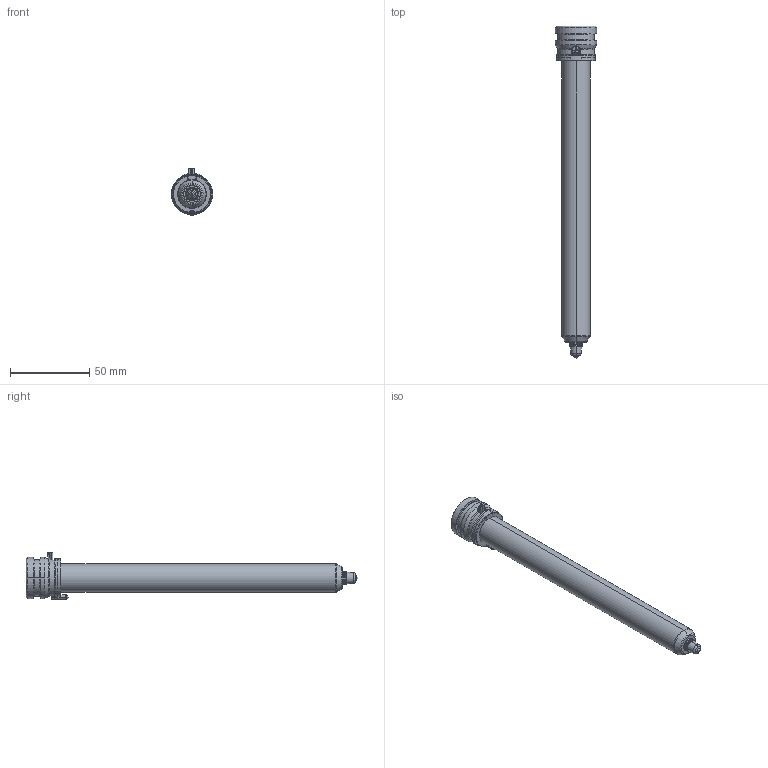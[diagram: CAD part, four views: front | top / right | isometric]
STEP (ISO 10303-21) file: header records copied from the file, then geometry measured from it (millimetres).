
FILE_DESCRIPTION((''),'2;1');
FILE_NAME('TH18191-A-1B50-PK-JG','2023-12-14T',('umhib'),('Thermoplay S.p.A.'),'PRO/ENGINEER BY PARAMETRIC TECHNOLOGY CORPORATION, 2017170','PRO/ENGINEER BY PARAMETRIC TECHNOLOGY CORPORATION, 2017170','');
FILE_SCHEMA(('CONFIG_CONTROL_DESIGN'));
Length unit declared in the file: millimetre
Products named in the file (1): TH18191-A-1B50-PK-JG
Bounding box: 26 x 209 x 29.5 mm (x, y, z)
Volume: 40401.3 mm3; surface area: 29470.9 mm2
Topology: 1 solids, 2 shells, 394 faces, 1026 edges, 637 vertices
Faces by surface type: cylinder 151, plane 85, cone 66, torus 54, bspline 24, sphere 12, extrusion 2
Entity records: 17996 total; most frequent: CARTESIAN_POINT 6173, ORIENTED_EDGE 2028, DIRECTION 2015, EDGE_CURVE 1016, AXIS2_PLACEMENT_3D 808, VERTEX_POINT 637, CIRCLE 439, EDGE_LOOP 414
